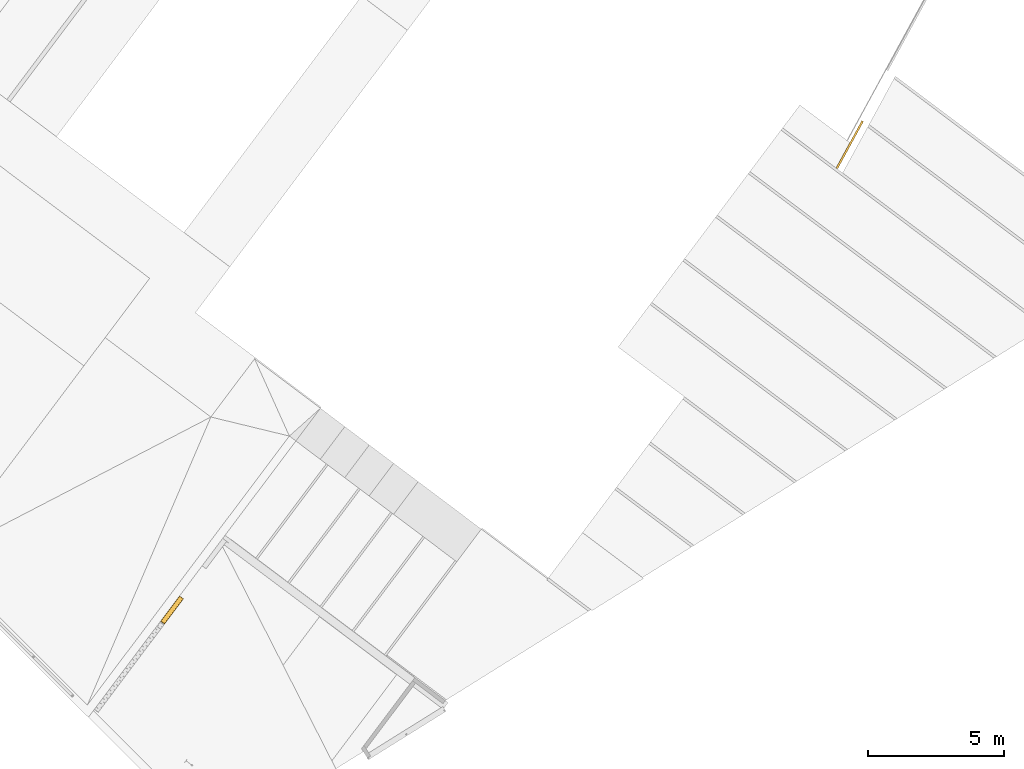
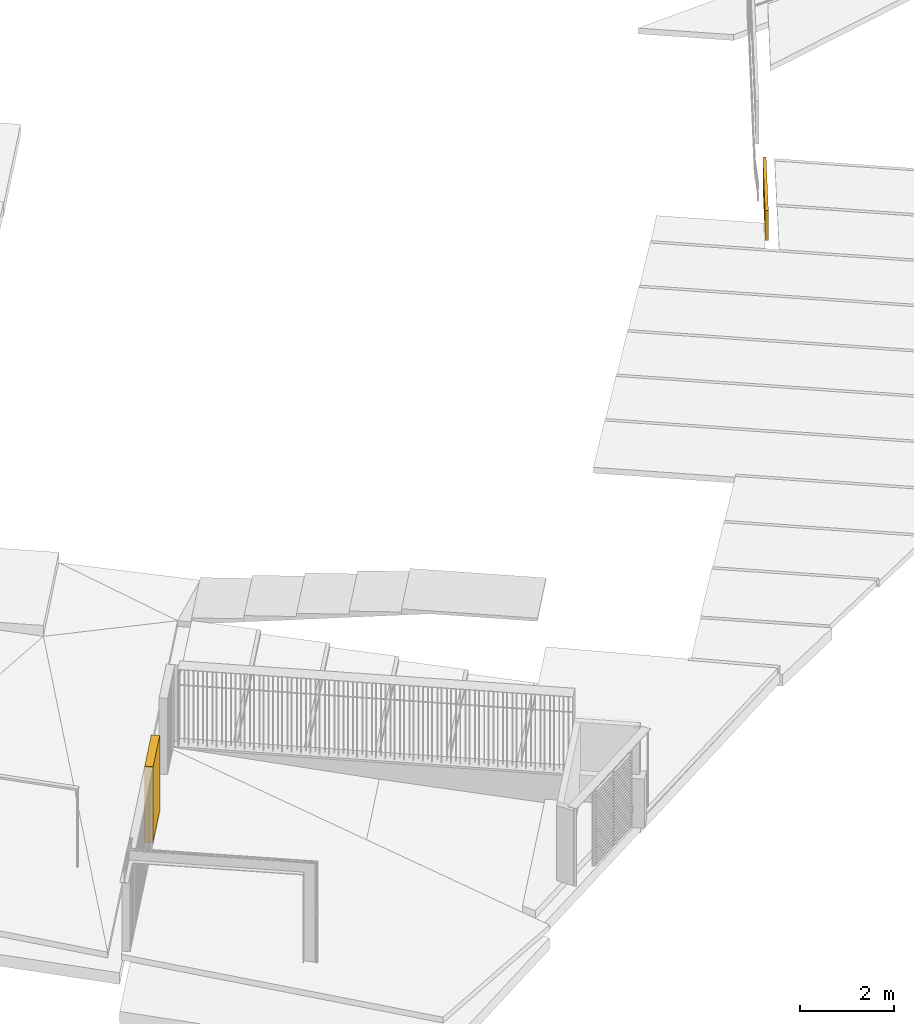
# One storey, part 31 of 33: 1 door, 1 railing.
"""IFC2X3 building model written with IfcOpenShell, lengths in metres."""

import ifcopenshell
import ifcopenshell.guid

model = None  # the IFC model being written
_history = None  # IfcOwnerHistory: only IFC2X3 demands one
_inside = {}  # id of a spatial element -> (the spatial element, [elements in it])
_under = {}  # id of a project, library or spatial element -> (it, [spatial elements below it])
_declared = {}  # id of a project -> (the project, [libraries it declares])
_typed = {}  # id of a type object -> (the type object, [elements of that type])
_made_of = {}  # id of a material, layer set ... -> (it, [elements and type objects made of it])


def new_model(schema):
    """Start an empty IFC model of exactly this schema.

    Asked for "IFC4X3", IfcOpenShell would pick the latest addendum, in which some entities
    have other attributes; the version numbers below select the first issue.
    IFC2X3 requires an IfcOwnerHistory on every rooted entity: one is made here for all.
    """
    global model, _history
    if schema == "IFC4X3":
        model = ifcopenshell.file(schema_version=(4, 3, 0, 0))
    else:
        model = ifcopenshell.file(schema=schema)
    _inside.clear()
    _under.clear()
    _declared.clear()
    _typed.clear()
    _made_of.clear()
    _history = None
    if model.schema == "IFC2X3":
        org = make("IfcOrganization", Name="unknown")
        user = make(
            "IfcPersonAndOrganization",
            ThePerson=make("IfcPerson", FamilyName="unknown"),
            TheOrganization=org,
        )
        app = make(
            "IfcApplication",
            ApplicationDeveloper=org,
            Version="unknown",
            ApplicationFullName="unknown",
            ApplicationIdentifier="unknown",
        )
        _history = make(
            "IfcOwnerHistory",
            OwningUser=user,
            OwningApplication=app,
            ChangeAction="ADDED",
            CreationDate=0,
        )
    return model


def make(cls, **values):
    """One entity of the class cls with the attributes given. An attribute that is None is left unset."""
    return model.create_entity(
        cls, **{name: value for name, value in values.items() if value is not None}
    )


def entity(cls, *values):
    """Any entity or typed value of the class cls, its attributes in the order of the schema. None: left unset."""
    e = model.create_entity(cls)
    for i, value in enumerate(values):
        if value is not None:
            e[i] = value
    return e


def rooted(cls, **values):
    """An entity with a GlobalId (a new one), such as an element, a storey or a relation."""
    return make(cls, GlobalId=ifcopenshell.guid.new(), OwnerHistory=_history, **values)


def si_unit(unit_type, name, prefix=None):
    """IfcSIUnit, for example si_unit("LENGTHUNIT", "METRE", prefix="MILLI")."""
    return make("IfcSIUnit", UnitType=unit_type, Prefix=prefix, Name=name)


def converted_unit(unit_type, name, factor, base, dimensions=None, offset=None):
    """IfcConversionBasedUnit, such as the inch: factor (a typed value) times the base unit."""
    return make(
        "IfcConversionBasedUnit"
        if offset is None
        else "IfcConversionBasedUnitWithOffset",
        ConversionOffset=offset,
        Dimensions=None
        if dimensions is None
        else entity("IfcDimensionalExponents", *dimensions),
        UnitType=unit_type,
        Name=name,
        ConversionFactor=make(
            "IfcMeasureWithUnit", ValueComponent=factor, UnitComponent=base
        ),
    )


def derived_unit(unit_type, elements):
    """IfcDerivedUnit: a product of units, each with its exponent."""
    return make(
        "IfcDerivedUnit",
        Elements=[
            make("IfcDerivedUnitElement", Unit=unit, Exponent=power)
            for unit, power in elements
        ],
        UnitType=unit_type,
    )


def assignment(units):
    """IfcUnitAssignment: the units of a project."""
    return None if units is None else make("IfcUnitAssignment", Units=units)


def point(xyz):
    """IfcCartesianPoint."""
    return None if xyz is None else make("IfcCartesianPoint", Coordinates=xyz)


def direction(xyz):
    """IfcDirection."""
    return None if xyz is None else make("IfcDirection", DirectionRatios=xyz)


def frame(location, z_axis=None, x_axis=None):
    """IfcAxis2Placement3D, a coordinate frame: its origin and axes. An axis left out is left unset."""
    return make(
        "IfcAxis2Placement3D",
        Location=point(location),
        Axis=direction(z_axis),
        RefDirection=direction(x_axis),
    )


def frame_2d(location, x_axis=None):
    """IfcAxis2Placement2D, a coordinate frame in the plane: its origin and x axis."""
    return make(
        "IfcAxis2Placement2D", Location=point(location), RefDirection=direction(x_axis)
    )


def origin():
    """The frame at (0, 0, 0) with its axes left unset."""
    return frame((0.0, 0.0, 0.0))


def origin_2d_with_axis():
    """The frame at (0, 0) in the plane with the x axis (1, 0) written out."""
    return frame_2d((0.0, 0.0), x_axis=(1.0, 0.0))


def place(relative_to, where):
    """IfcLocalPlacement: puts the frame where relative to a parent placement (None: the world)."""
    return make(
        "IfcLocalPlacement", PlacementRelTo=relative_to, RelativePlacement=where
    )


def context(
    kind, dimensions, precision=None, world=None, true_north=None, identifier=None
):
    """IfcGeometricRepresentationContext, for example the 3D "Model" context."""
    return make(
        "IfcGeometricRepresentationContext",
        ContextIdentifier=identifier,
        ContextType=kind,
        CoordinateSpaceDimension=dimensions,
        Precision=precision,
        WorldCoordinateSystem=world,
        TrueNorth=true_north,
    )


def subcontext(parent, identifier, kind, view, scale=None):
    """IfcGeometricRepresentationSubContext, for example "Body" below "Model"."""
    return make(
        "IfcGeometricRepresentationSubContext",
        ContextIdentifier=identifier,
        ContextType=kind,
        ParentContext=parent,
        TargetScale=scale,
        TargetView=view,
    )


def project(units=None, contexts=None):
    """IfcProject with its units and contexts."""
    return rooted(
        "IfcProject",
        Name="project",
        RepresentationContexts=contexts,
        UnitsInContext=assignment(units),
    )


def spatial(cls, under=None, at=None, **own):
    """A site, building, storey or space (cls), placed at a placement, below another one or the project."""
    s = rooted(cls, ObjectPlacement=at, **own)
    if under is not None:
        _under.setdefault(under.id(), (under, []))[1].append(s)
    return s


def polyline(points):
    """IfcPolyline through the points."""
    return make("IfcPolyline", Points=[point(p) for p in points])


def profile(cls, at=None, kind="AREA", **sizes):
    """A parametric profile (cls). Its sizes go by their IFC names, for example OverallWidth=200.0."""
    return make(cls, ProfileType=kind, Position=at, **sizes)


def rectangle(**sizes):
    """IfcRectangleProfileDef."""
    return profile("IfcRectangleProfileDef", **sizes)


def outline(outer, holes=None, kind="AREA"):
    """IfcArbitraryClosedProfileDef: a profile drawn as a closed curve; with holes, ...WithVoids."""
    if holes is None:
        return make("IfcArbitraryClosedProfileDef", ProfileType=kind, OuterCurve=outer)
    return make(
        "IfcArbitraryProfileDefWithVoids",
        ProfileType=kind,
        OuterCurve=outer,
        InnerCurves=holes,
    )


def extrude(swept, where, along, depth):
    """IfcExtrudedAreaSolid: the profile swept, set in the frame where, extruded along a direction by depth."""
    return make(
        "IfcExtrudedAreaSolid",
        SweptArea=swept,
        Position=where,
        ExtrudedDirection=direction(along),
        Depth=depth,
    )


def shape(context_of_items, identifier, shape_type, items):
    """IfcShapeRepresentation: the items that make up one representation, for example the "Body"."""
    return make(
        "IfcShapeRepresentation",
        ContextOfItems=context_of_items,
        RepresentationIdentifier=identifier,
        RepresentationType=shape_type,
        Items=items,
    )


def source(mapping_origin, context_of_items, identifier, shape_type, items):
    """IfcRepresentationMap: a shape defined once, which mapped items show again and again."""
    return make(
        "IfcRepresentationMap",
        MappingOrigin=mapping_origin,
        MappedRepresentation=shape(context_of_items, identifier, shape_type, items),
    )


def transform(
    local_origin,
    x_axis=None,
    y_axis=None,
    z_axis=None,
    scale=None,
    scale2=None,
    scale3=None,
    uniform=True,
):
    """IfcCartesianTransformationOperator3D, or its non-uniform kind. x_axis, y_axis, z_axis: its Axis1, 2, 3."""
    if uniform:
        return make(
            "IfcCartesianTransformationOperator3D",
            Axis1=direction(x_axis),
            Axis2=direction(y_axis),
            LocalOrigin=point(local_origin),
            Scale=scale,
            Axis3=direction(z_axis),
        )
    return make(
        "IfcCartesianTransformationOperator3DnonUniform",
        Axis1=direction(x_axis),
        Axis2=direction(y_axis),
        LocalOrigin=point(local_origin),
        Scale=scale,
        Axis3=direction(z_axis),
        Scale2=scale2,
        Scale3=scale3,
    )


def mapped(mapping_source, mapping_target):
    """IfcMappedItem: shows the shape of a source again, moved by a transform."""
    return make(
        "IfcMappedItem", MappingSource=mapping_source, MappingTarget=mapping_target
    )


def material(Name=None, Category=None):
    """IfcMaterial."""
    return make("IfcMaterial", Name=Name, Category=Category)


def made_of(thing, what):
    """Note that an element or type object is made of a material, layer set ...; save() writes the relation."""
    if what is not None:
        _made_of.setdefault(what.id(), (what, []))[1].append(thing)
    return thing


def type_object(cls, material=None, **own):
    """A type object (cls), such as IfcWallType, which elements share."""
    return made_of(rooted(cls, **own), material)


def type_shapes(of_type, sources):
    """Give a type object the sources (RepresentationMaps) that its elements show as mapped items."""
    of_type.RepresentationMaps = sources


def element(
    cls,
    number,
    at=None,
    inside=None,
    cuts=None,
    type_object=None,
    material=None,
    context=None,
    identifier="Body",
    shape_type=None,
    held_by="IfcProductDefinitionShape",
    body=None,
    shapes=None,
    **own,
):
    """One element of the class cls, such as IfcWall. Its Tag is "e" and its number.

    at: its placement. inside: the storey or other place that contains it. cuts: it is an
    opening in that element (IfcRelVoidsElement). A single representation is given by context,
    identifier, shape_type and body (its items); several are given by shapes. held_by: the class
    of the entity that holds the representations. save() writes the other relations.
    """
    e = rooted(cls, Tag="e%d" % number, ObjectPlacement=at, **own)
    if body is not None:
        shapes = [shape(context, identifier, shape_type, body)]
    if shapes is not None:
        e.Representation = make(held_by, Representations=shapes)
    if inside is not None:
        _inside.setdefault(inside.id(), (inside, []))[1].append(e)
    if cuts is not None:
        rooted(
            "IfcRelVoidsElement", RelatingBuildingElement=cuts, RelatedOpeningElement=e
        )
    if type_object is not None:
        _typed.setdefault(type_object.id(), (type_object, []))[1].append(e)
    return made_of(e, material)


def aggregate(whole, parts):
    """IfcRelAggregates: a whole, such as a stair, and the parts it consists of."""
    return rooted("IfcRelAggregates", RelatingObject=whole, RelatedObjects=parts)


def save(model, path):
    """Write the relations noted so far, then the file.

    IfcRelAggregates (storeys below a building ...), IfcRelContainedInSpatialStructure (elements
    in a storey), IfcRelDefinesByType, IfcRelAssociatesMaterial and IfcRelDeclares: one each for
    every whole, place, type object, material and project.
    """
    for whole, parts in _under.values():
        aggregate(whole, parts)
    for where, things in _inside.values():
        rooted(
            "IfcRelContainedInSpatialStructure",
            RelatedElements=things,
            RelatingStructure=where,
        )
    for kind, things in _typed.values():
        rooted("IfcRelDefinesByType", RelatedObjects=things, RelatingType=kind)
    for what, things in _made_of.values():
        rooted("IfcRelAssociatesMaterial", RelatedObjects=things, RelatingMaterial=what)
    for by, libraries in _declared.values():
        rooted("IfcRelDeclares", RelatingContext=by, RelatedDefinitions=libraries)
    model.write(path)


model = new_model("IFC2X3")

# Units and contexts
model_context = context("Model", 3, precision=1e-05, world=origin(), true_north=direction((6.123031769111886e-17, 1.0)))
body_context = subcontext(model_context, "Body", "Model", "MODEL_VIEW")
ifc_project = project(units=[si_unit("LENGTHUNIT", "METRE"), si_unit("AREAUNIT", "SQUARE_METRE"), si_unit("VOLUMEUNIT", "CUBIC_METRE"), converted_unit("PLANEANGLEUNIT", "DEGREE", entity("IfcRatioMeasure", 0.017453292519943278), si_unit("PLANEANGLEUNIT", "RADIAN"), dimensions=[0, 0, 0, 0, 0, 0, 0]), si_unit("MASSUNIT", "GRAM", prefix="KILO"), derived_unit("MASSDENSITYUNIT", [(si_unit("MASSUNIT", "GRAM", prefix="KILO"), 1), (si_unit("LENGTHUNIT", "METRE"), -3)]), derived_unit("IONCONCENTRATIONUNIT", [(si_unit("MASSUNIT", "GRAM", prefix="KILO"), 1), (si_unit("LENGTHUNIT", "METRE"), -3)]), derived_unit("MOMENTOFINERTIAUNIT", [(si_unit("LENGTHUNIT", "METRE"), 4)]), si_unit("TIMEUNIT", "SECOND"), si_unit("FREQUENCYUNIT", "HERTZ"), si_unit("THERMODYNAMICTEMPERATUREUNIT", "DEGREE_CELSIUS"), derived_unit("THERMALTRANSMITTANCEUNIT", [(si_unit("MASSUNIT", "GRAM", prefix="KILO"), 1), (si_unit("THERMODYNAMICTEMPERATUREUNIT", "KELVIN"), -1), (si_unit("TIMEUNIT", "SECOND"), -3)]), derived_unit("THERMALCONDUCTANCEUNIT", [(si_unit("MASSUNIT", "GRAM", prefix="KILO"), 1), (si_unit("THERMODYNAMICTEMPERATUREUNIT", "KELVIN"), -1), (si_unit("TIMEUNIT", "SECOND"), -3), (si_unit("LENGTHUNIT", "METRE"), 1)]), derived_unit("VOLUMETRICFLOWRATEUNIT", [(si_unit("LENGTHUNIT", "METRE"), 3), (si_unit("TIMEUNIT", "SECOND"), -1)]), derived_unit("MASSFLOWRATEUNIT", [(si_unit("MASSUNIT", "GRAM", prefix="KILO"), 1), (si_unit("TIMEUNIT", "SECOND"), -1)]), derived_unit("ROTATIONALFREQUENCYUNIT", [(si_unit("TIMEUNIT", "SECOND"), -1)]), si_unit("ELECTRICCURRENTUNIT", "AMPERE"), si_unit("ELECTRICVOLTAGEUNIT", "VOLT"), si_unit("POWERUNIT", "WATT"), si_unit("FORCEUNIT", "NEWTON", prefix="KILO"), si_unit("ILLUMINANCEUNIT", "LUX"), si_unit("LUMINOUSFLUXUNIT", "LUMEN"), si_unit("LUMINOUSINTENSITYUNIT", "CANDELA"), derived_unit("USERDEFINED", [(si_unit("MASSUNIT", "GRAM", prefix="KILO"), -1), (si_unit("LENGTHUNIT", "METRE"), -2), (si_unit("TIMEUNIT", "SECOND"), 3), (si_unit("LUMINOUSFLUXUNIT", "LUMEN"), 1)]), derived_unit("USERDEFINED", [(si_unit("MASSUNIT", "GRAM", prefix="KILO"), 1), (si_unit("TIMEUNIT", "SECOND"), -3), (si_unit("LENGTHUNIT", "METRE"), 3), (si_unit("ELECTRICCURRENTUNIT", "AMPERE"), -2)]), derived_unit("SOUNDPOWERUNIT", [(si_unit("MASSUNIT", "GRAM", prefix="KILO"), 1), (si_unit("TIMEUNIT", "SECOND"), -3), (si_unit("LENGTHUNIT", "METRE"), 2)]), derived_unit("SOUNDPRESSUREUNIT", [(si_unit("MASSUNIT", "GRAM", prefix="KILO"), 1), (si_unit("LENGTHUNIT", "METRE"), -1), (si_unit("TIMEUNIT", "SECOND"), -2)]), derived_unit("LINEARVELOCITYUNIT", [(si_unit("LENGTHUNIT", "METRE"), 1), (si_unit("TIMEUNIT", "SECOND"), -1)]), si_unit("PRESSUREUNIT", "PASCAL"), derived_unit("USERDEFINED", [(si_unit("MASSUNIT", "GRAM", prefix="KILO"), 1), (si_unit("LENGTHUNIT", "METRE"), -2), (si_unit("TIMEUNIT", "SECOND"), -2)]), derived_unit("LINEARFORCEUNIT", [(si_unit("MASSUNIT", "GRAM", prefix="KILO"), 1), (si_unit("TIMEUNIT", "SECOND"), -2)]), derived_unit("PLANARFORCEUNIT", [(si_unit("MASSUNIT", "GRAM", prefix="KILO"), 1), (si_unit("LENGTHUNIT", "METRE"), -1), (si_unit("TIMEUNIT", "SECOND"), -2)]), derived_unit("SPECIFICHEATCAPACITYUNIT", [(si_unit("THERMODYNAMICTEMPERATUREUNIT", "KELVIN"), -1), (si_unit("LENGTHUNIT", "METRE"), 2), (si_unit("TIMEUNIT", "SECOND"), -2)]), derived_unit("HEATINGVALUEUNIT", [(si_unit("LENGTHUNIT", "METRE"), 2), (si_unit("TIMEUNIT", "SECOND"), -2)]), derived_unit("VAPORPERMEABILITYUNIT", [(si_unit("LENGTHUNIT", "METRE"), -1), (si_unit("TIMEUNIT", "SECOND"), 1)]), derived_unit("DYNAMICVISCOSITYUNIT", [(si_unit("MASSUNIT", "GRAM", prefix="KILO"), 1), (si_unit("TIMEUNIT", "SECOND"), -1), (si_unit("LENGTHUNIT", "METRE"), -1)]), derived_unit("THERMALEXPANSIONCOEFFICIENTUNIT", [(si_unit("THERMODYNAMICTEMPERATUREUNIT", "KELVIN"), -1)]), derived_unit("MODULUSOFELASTICITYUNIT", [(si_unit("MASSUNIT", "GRAM", prefix="KILO"), 1), (si_unit("LENGTHUNIT", "METRE"), -1), (si_unit("TIMEUNIT", "SECOND"), -2)]), derived_unit("ISOTHERMALMOISTURECAPACITYUNIT", [(si_unit("LENGTHUNIT", "METRE"), 3), (si_unit("MASSUNIT", "GRAM", prefix="KILO"), -1)]), derived_unit("MOISTUREDIFFUSIVITYUNIT", [(si_unit("TIMEUNIT", "SECOND"), -1), (si_unit("LENGTHUNIT", "METRE"), 2)])], contexts=[model_context])

# Site, building, storey
site_placement = place(None, origin())
site = spatial("IfcSite", under=ifc_project, at=site_placement, Name="Superficie", CompositionType="ELEMENT")
building_placement = place(site_placement, frame((0.0, 0.0, 235.0), z_axis=(0.0, 0.0, 1.0), x_axis=(-0.7996477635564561, 0.6004693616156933, 0.0)))
building = spatial("IfcBuilding", under=site, at=building_placement, CompositionType="ELEMENT")
storey_placement = place(building_placement, origin())
storey = spatial("IfcBuildingStorey", under=building, at=storey_placement, Name="P0- Escola", CompositionType="ELEMENT", Elevation=0.0)

# Door
ifc_material = material(Name="<Unnamed>")
door_style = type_object("IfcDoorStyle", Name="SER URB- SM1b- FIXE OPACA:SER URB- SM1b- FIXE OPACA", ConstructionType="NOTDEFINED", OperationType="NOTDEFINED", ParameterTakesPrecedence=False, Sizeable=False, material=ifc_material)
shared_shape = source(origin(), body_context, "Body", "SweptSolid", [
    extrude(rectangle(XDim=0.004999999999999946, YDim=1.1400000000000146, at=origin_2d_with_axis()), frame((-0.08249999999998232, 0.5799999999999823, 0.04999999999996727), z_axis=(0.0, 0.0, 1.0), x_axis=(-1.0, 0.0, 0.0)), (0.0, 0.0, 1.0), 1.95),
    extrude(rectangle(XDim=0.005000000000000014, YDim=1.1400000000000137, at=origin_2d_with_axis()), frame((0.0824999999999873, 0.5799999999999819, 0.04999999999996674), z_axis=(0.0, 0.0, 1.0), x_axis=(-1.0, 0.0, 0.0)), (0.0, 0.0, 1.0), 1.95),
    extrude(outline(polyline([(-0.9850000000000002, -0.5800000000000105), (0.985, -0.5800000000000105), (0.9850000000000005, 0.5800000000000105), (-0.9850000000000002, 0.5800000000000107), (-0.9850000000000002, -0.5800000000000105)]), holes=[polyline([(-0.9749999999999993, -0.5700000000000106), (-0.9749999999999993, 0.5700000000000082), (0.9750000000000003, 0.5700000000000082), (0.9750000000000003, -0.5700000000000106), (-0.9749999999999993, -0.5700000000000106)])]), frame((-0.08999999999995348, 0.5799999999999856, 1.0249999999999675), z_axis=(1.0, 0.0, 0.0), x_axis=(0.0, 0.0, -1.0)), (0.0, 0.0, 1.0), 0.17999999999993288),
])
type_shapes(door_style, [shared_shape])
door_placement = place(storey_placement, frame((10.135147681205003, -9.386191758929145, -0.73)))
element("IfcDoor", 1, at=door_placement, inside=storey, type_object=door_style, material=ifc_material, Name="SER URB- SM1b- FIXE OPACA:SER URB- SM1b- FIXE OPACA", ObjectType="SER URB- SM1b- FIXE OPACA:SER URB- SM1b- FIXE OPACA", OverallHeight=5.0, OverallWidth=0.4049999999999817, context=body_context, shape_type="MappedRepresentation", body=[
    mapped(shared_shape, transform((0.0, 0.0, 0.0), scale=1.0)),
])

# Railing
railing_placement = place(storey_placement, frame((0.3289998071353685, -38.35375541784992, -3.88)))
element("IfcRailing", 2, at=railing_placement, inside=storey, material=ifc_material, Name="Barandilla:BaranaEscalaGimnas", ObjectType="Barandilla:BaranaEscalaGimnas", PredefinedType="NOTDEFINED", context=body_context, shape_type="SweptSolid", body=[
    extrude(rectangle(XDim=0.04999999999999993, YDim=0.009999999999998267, at=frame_2d((2.445960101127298e-16, 2.1527918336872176e-15), x_axis=(1.0, 0.0))), frame((0.3089873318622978, 0.08134821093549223, 0.009999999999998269), z_axis=(0.0, 0.0, 1.0), x_axis=(-0.9894874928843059, -0.1446184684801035, 0.0)), (0.0, 0.0, 1.0), 0.7599999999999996),
    extrude(rectangle(XDim=0.049999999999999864, YDim=0.009999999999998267, at=frame_2d((3.4867941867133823e-16, 2.138480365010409e-15), x_axis=(1.0, 0.0))), frame((0.28874074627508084, 0.2198764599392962, 0.009999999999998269), z_axis=(0.0, 0.0, 1.0), x_axis=(-0.9894874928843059, -0.1446184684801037, 0.0)), (0.0, 0.0, 1.0), 0.7599999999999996),
    extrude(rectangle(XDim=0.049999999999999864, YDim=0.009999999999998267, at=frame_2d((-2.8102520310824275e-16, -2.1480213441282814e-15), x_axis=(1.0, 0.0))), frame((0.2684941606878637, 0.3584047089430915, 0.009999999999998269), z_axis=(0.0, 0.0, 1.0), x_axis=(-0.9894874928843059, -0.1446184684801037, 0.0)), (0.0, 0.0, 1.0), 0.7599999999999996),
    extrude(rectangle(XDim=0.049999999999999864, YDim=0.009999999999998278, at=frame_2d((-2.8102520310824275e-16, -2.1480213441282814e-15), x_axis=(1.0, 0.0))), frame((0.24824757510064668, 0.4969329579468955, 0.009999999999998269), z_axis=(0.0, 0.0, 1.0), x_axis=(-0.9894874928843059, -0.1446184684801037, 0.0)), (0.0, 0.0, 1.0), 0.7599999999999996),
    extrude(rectangle(XDim=0.049999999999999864, YDim=0.009999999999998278, at=frame_2d((3.4867941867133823e-16, 2.138480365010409e-15), x_axis=(1.0, 0.0))), frame((0.22800098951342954, 0.6354612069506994, 0.009999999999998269), z_axis=(0.0, 0.0, 1.0), x_axis=(-0.9894874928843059, -0.1446184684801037, 0.0)), (0.0, 0.0, 1.0), 0.7599999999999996),
    extrude(rectangle(XDim=0.049999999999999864, YDim=0.009999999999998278, at=frame_2d((-2.8102520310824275e-16, -2.1480213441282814e-15), x_axis=(1.0, 0.0))), frame((0.20775440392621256, 0.7739894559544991, 0.009999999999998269), z_axis=(0.0, 0.0, 1.0), x_axis=(-0.9894874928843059, -0.1446184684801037, 0.0)), (0.0, 0.0, 1.0), 0.7599999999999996),
    extrude(rectangle(XDim=0.049999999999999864, YDim=0.009999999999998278, at=frame_2d((3.4867941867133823e-16, 2.138480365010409e-15), x_axis=(1.0, 0.0))), frame((0.18750781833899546, 0.9125177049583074, 0.009999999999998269), z_axis=(0.0, 0.0, 1.0), x_axis=(-0.9894874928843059, -0.1446184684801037, 0.0)), (0.0, 0.0, 1.0), 0.7599999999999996),
    extrude(rectangle(XDim=0.049999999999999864, YDim=0.009999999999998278, at=frame_2d((3.4867941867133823e-16, 2.138480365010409e-15), x_axis=(1.0, 0.0))), frame((0.1672612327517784, 1.051045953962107, 0.009999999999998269), z_axis=(0.0, 0.0, 1.0), x_axis=(-0.9894874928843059, -0.1446184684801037, 0.0)), (0.0, 0.0, 1.0), 0.7599999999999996),
    extrude(rectangle(XDim=0.049999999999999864, YDim=0.009999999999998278, at=frame_2d((3.4867941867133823e-16, 2.138480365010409e-15), x_axis=(1.0, 0.0))), frame((0.14701464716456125, 1.189574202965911, 0.009999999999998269), z_axis=(0.0, 0.0, 1.0), x_axis=(-0.9894874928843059, -0.1446184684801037, 0.0)), (0.0, 0.0, 1.0), 0.7599999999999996),
    extrude(rectangle(XDim=0.049999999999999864, YDim=0.009999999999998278, at=frame_2d((3.4867941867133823e-16, 2.138480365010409e-15), x_axis=(1.0, 0.0))), frame((0.12676806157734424, 1.328102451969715, 0.009999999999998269), z_axis=(0.0, 0.0, 1.0), x_axis=(-0.9894874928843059, -0.1446184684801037, 0.0)), (0.0, 0.0, 1.0), 0.7599999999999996),
    extrude(rectangle(XDim=0.049999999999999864, YDim=0.009999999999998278, at=frame_2d((3.4867941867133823e-16, 2.138480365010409e-15), x_axis=(1.0, 0.0))), frame((0.10652147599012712, 1.4666307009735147, 0.009999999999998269), z_axis=(0.0, 0.0, 1.0), x_axis=(-0.9894874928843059, -0.1446184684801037, 0.0)), (0.0, 0.0, 1.0), 0.7599999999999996),
    extrude(rectangle(XDim=0.049999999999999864, YDim=0.009999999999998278, at=frame_2d((2.8102520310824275e-16, 2.1480213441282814e-15), x_axis=(1.0, 0.0))), frame((0.08627489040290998, 1.6051589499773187, 0.009999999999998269), z_axis=(0.0, 0.0, 1.0), x_axis=(-0.9894874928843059, -0.1446184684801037, 0.0)), (0.0, 0.0, 1.0), 0.7599999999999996),
    extrude(rectangle(XDim=0.049999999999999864, YDim=0.009999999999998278, at=frame_2d((3.4867941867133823e-16, 2.138480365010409e-15), x_axis=(1.0, 0.0))), frame((0.06602830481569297, 1.7436871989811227, 0.009999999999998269), z_axis=(0.0, 0.0, 1.0), x_axis=(-0.9894874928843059, -0.1446184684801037, 0.0)), (0.0, 0.0, 1.0), 0.7599999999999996),
    extrude(rectangle(XDim=0.049999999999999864, YDim=0.009999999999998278, at=frame_2d((-3.4867941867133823e-16, -2.138480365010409e-15), x_axis=(1.0, 0.0))), frame((0.045781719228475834, 1.8822154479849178, 0.009999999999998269), z_axis=(0.0, 0.0, 1.0), x_axis=(-0.9894874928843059, -0.1446184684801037, 0.0)), (0.0, 0.0, 1.0), 0.7599999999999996),
    extrude(rectangle(XDim=0.07000000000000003, YDim=0.009999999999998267, at=frame_2d((6.938893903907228e-16, 4.2760933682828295e-15), x_axis=(1.0, 0.0))), frame((0.3194138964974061, 0.010009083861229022, 0.009999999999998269), z_axis=(0.0, 0.0, 1.0), x_axis=(-0.9894874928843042, -0.14461846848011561, 0.0)), (0.0, 0.0, 1.0), 0.7599999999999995),
    extrude(rectangle(XDim=0.06999999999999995, YDim=0.009999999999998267, at=frame_2d((3.469446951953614e-17, -4.7704895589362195e-18), x_axis=(1.0, 0.0))), frame((0.035355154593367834, 1.9535545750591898, 0.009999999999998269), z_axis=(0.0, 0.0, 1.0), x_axis=(-0.9894874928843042, -0.14461846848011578, 0.0)), (0.0, 0.0, 1.0), 0.7599999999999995),
    extrude(rectangle(XDim=1.9641940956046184, YDim=0.07000000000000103, at=frame_2d((2.1094237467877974e-15, -4.649058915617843e-16), x_axis=(1.0, 0.0))), frame((0.17666143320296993, 0.9867292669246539, 0.7699999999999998), z_axis=(0.0, 0.0, 1.0), x_axis=(0.14461846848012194, -0.9894874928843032, 0.0)), (0.0, 0.0, 1.0), 0.009999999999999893),
    extrude(rectangle(XDim=1.9641940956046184, YDim=0.07000000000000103, at=frame_2d((2.1094237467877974e-15, -4.649058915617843e-16), x_axis=(1.0, 0.0))), frame((0.17666143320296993, 0.9867292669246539, 0.0), z_axis=(0.0, 0.0, 1.0), x_axis=(0.14461846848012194, -0.9894874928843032, 0.0)), (0.0, 0.0, 1.0), 0.009999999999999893),
])

save(model, "model.ifc")
